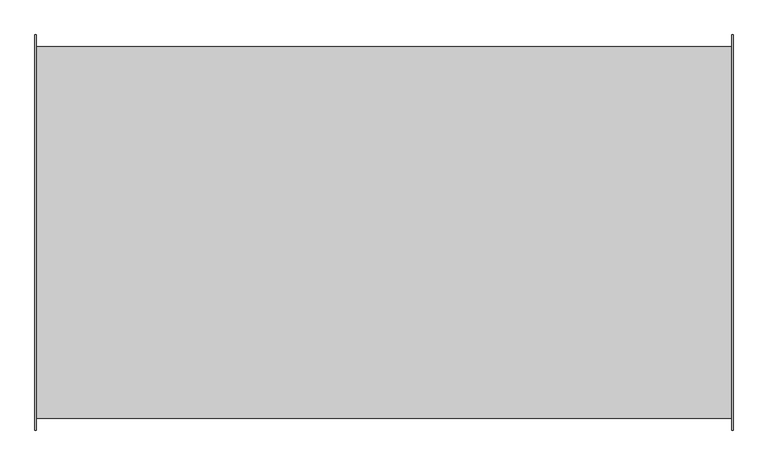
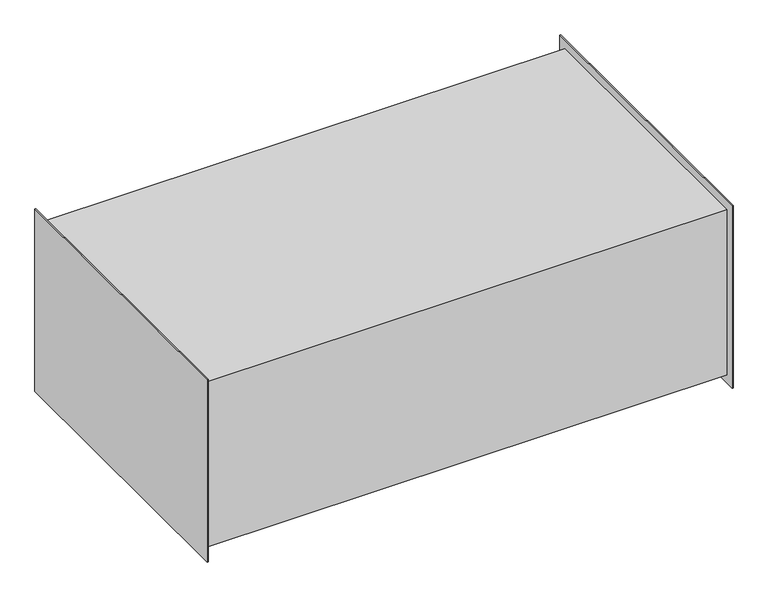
"""IFC4 building model written with IfcOpenShell, lengths in millimetres: damper geometry, Шумоглушитель_Прямоугольный_ГП : ГП (L=1500)."""

from ifc_helpers import new_model, si_unit, origin, place, context, project, spatial, faceted_brep, source, transform, mapped, element, save


def damper_b7a45a8b(model_context):
    return source(origin(), model_context, "Body", "Brep", [
        faceted_brep([(750.0, -425.0, 275.0), (750.0, -425.0, -275.0), (750.0, 425.0, -275.0), (750.0, 425.0, 275.0), (-750.0, -425.0, 275.0), (-750.0, 425.0, 275.0), (-750.0, 425.0, -275.0), (-750.0, -425.0, -275.0), (747.0, -425.0, 275.0), (747.0, -425.0, -275.0), (-747.0, -425.0, -275.0), (-747.0, -425.0, 275.0), (747.0, 425.0, -275.0), (-747.0, 425.0, -275.0), (747.0, 425.0, 275.0), (-747.0, 425.0, 275.0), (747.0, -400.0, 250.0), (747.0, -400.0, -250.0), (747.0, 400.0, -250.0), (747.0, 400.0, 250.0), (-747.0, -400.0, 250.0), (-747.0, 400.0, 250.0), (-747.0, 400.0, -250.0), (-747.0, -400.0, -250.0)], [[[0, 1, 2, 3]], [[4, 5, 6, 7]], [[1, 0, 8, 9]], [[4, 7, 10, 11]], [[2, 1, 9, 12]], [[7, 6, 13, 10]], [[3, 2, 12, 14]], [[6, 5, 15, 13]], [[0, 3, 14, 8]], [[5, 4, 11, 15]], [[9, 8, 14, 12], [16, 17, 18, 19]], [[11, 10, 13, 15], [20, 21, 22, 23]], [[16, 19, 21, 20]], [[19, 18, 22, 21]], [[18, 17, 23, 22]], [[17, 16, 20, 23]]]),
    ])


if __name__ == "__main__":
    model = new_model("IFC4")
    model_context = context("Model", 3, world=origin())
    ifc_project = project(units=[si_unit("LENGTHUNIT", "METRE", prefix="MILLI")], contexts=[model_context])
    site = spatial("IfcSite", under=ifc_project)
    building = spatial("IfcBuilding", under=site)
    placement = place(None, origin())
    damper_shape = damper_b7a45a8b(model_context)
    element("IfcDamper", 1, ObjectType="Шумоглушитель_Прямоугольный_ГП : ГП (L=1500)", at=placement, inside=building, context=model_context, shape_type="MappedRepresentation", body=[
        mapped(damper_shape, transform((0.0, 0.0, 0.0), x_axis=(1.0, 0.0, 0.0), y_axis=(0.0, 1.0, 0.0), z_axis=(0.0, 0.0, 1.0))),
    ])
    save(model, "model.ifc")
